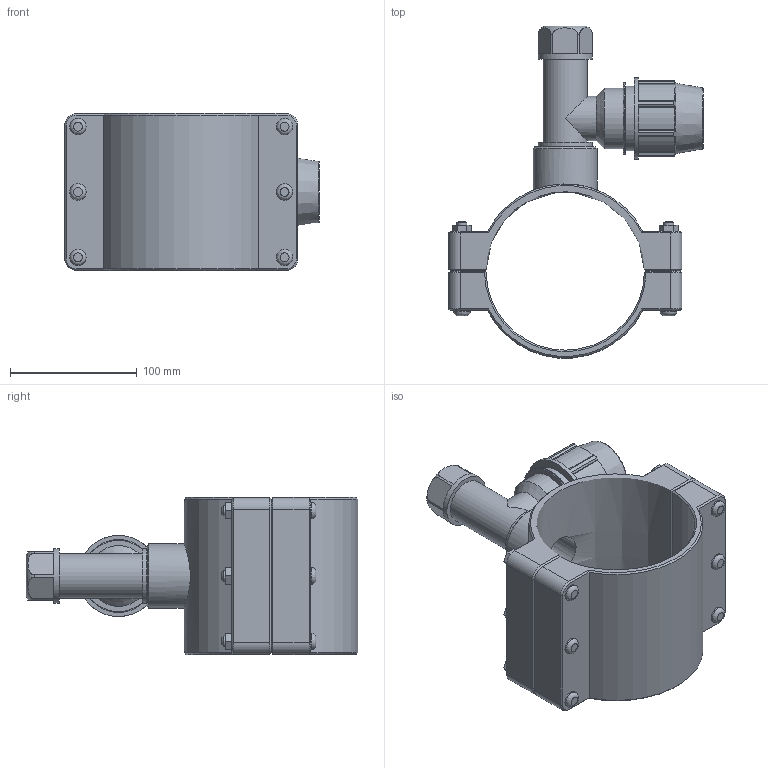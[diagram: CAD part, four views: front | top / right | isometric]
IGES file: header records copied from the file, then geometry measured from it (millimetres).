
Global section: file name: 165400125032_165406125032.ipt; native system: Autodesk Inventor 2015; preprocessor: unknown; author: KIM; date: 20170618.093932; units: millimetre
Bounding box: 201 x 262 x 124 mm (x, y, z)
Volume: 920063.5 mm3; surface area: 200555.7 mm2
Topology: 1 solids, 1 shells, 260 faces, 648 edges, 422 vertices
Faces by surface type: plane 163, cylinder 48, cone 30, revolution 19
Full cylindrical faces by diameter (mm): 8 x6, 13 x12, 35.057 x2, 38.952 x1, 42.847 x2, 48 x1, 50.638 x1, 51.2 x1, 57.6 x1, 64 x1
